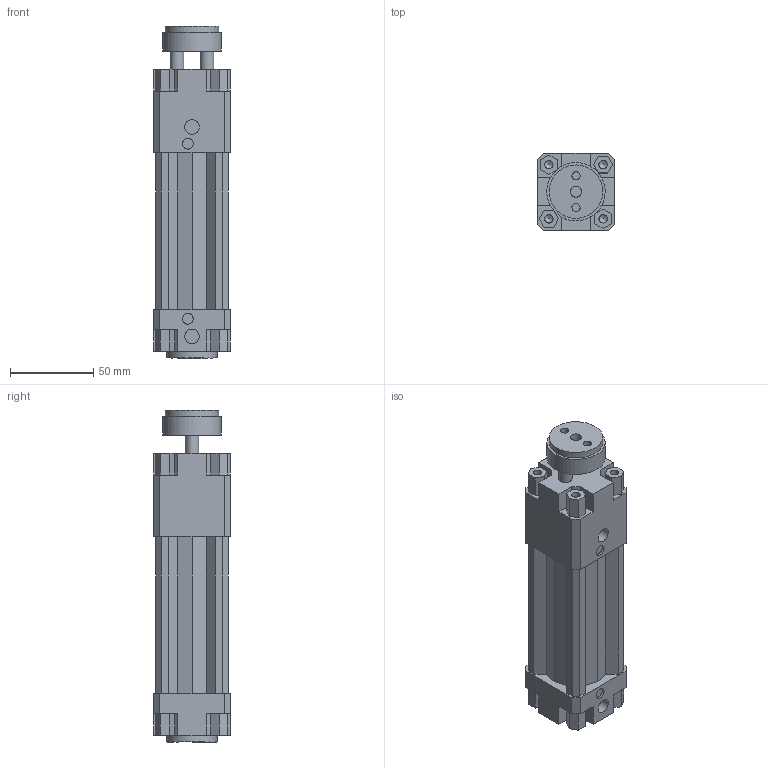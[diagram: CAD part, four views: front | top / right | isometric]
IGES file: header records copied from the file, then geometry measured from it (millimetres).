
Global section: file name: 134#_032_0050_01; native system: Autodesk Inventor 2014; preprocessor: unknown; author: A. Manieri; date: 20161006.164201; units: millimetre
Bounding box: 46 x 46 x 199 mm (x, y, z)
Volume: 259909.2 mm3; surface area: 71924.1 mm2
Topology: 2 solids, 2 shells, 187 faces, 507 edges, 343 vertices
Faces by surface type: bspline 187
